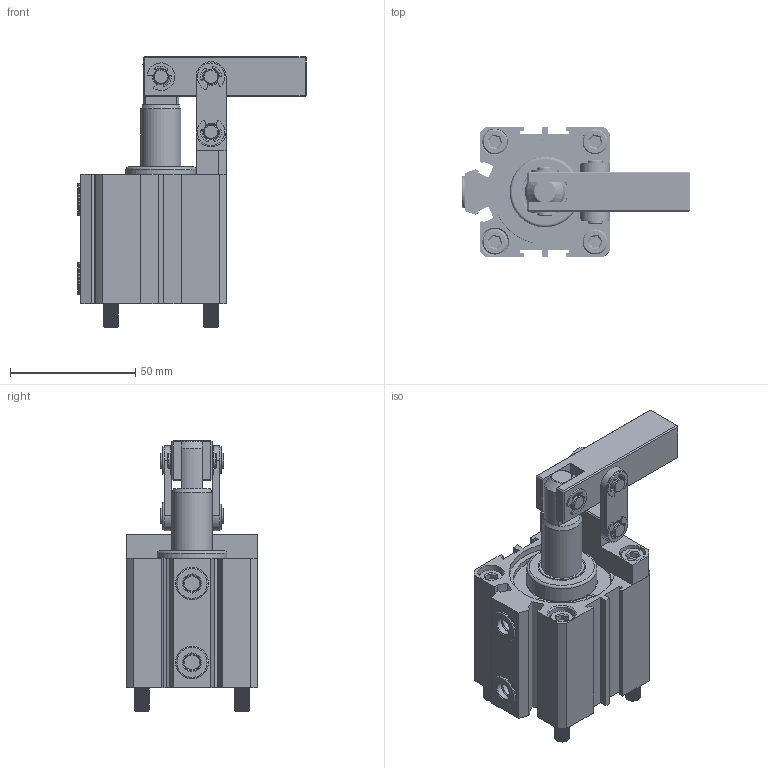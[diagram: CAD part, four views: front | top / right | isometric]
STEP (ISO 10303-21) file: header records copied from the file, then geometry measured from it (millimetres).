
FILE_DESCRIPTION(/* description */ ('STEP AP203'),/* implementation_level */ '2;1');
FILE_NAME(/* name */ 'E:\SERWER_ZAPAS\Pneumatic\CALC PNEUMATIC LEVERAGE BEZ MS\CALC-40\CALC-40_ZAMKNIETY.stp',/* time_stamp */ '2019-02-07T10:54:47+01:00',/* author */ ('Admin'),/* organization */ ('Î¢ÈíÖÐ¹ú'),/* preprocessor_version */ 'ST-DEVELOPER v17.2',/* originating_system */ 'Autodesk Inventor 2019',/* authorisation */ '');
FILE_SCHEMA (('AUTOMOTIVE_DESIGN { 1 0 10303 214 3 1 1 }'));
Products named in the file (17): CALC-40_ZAMKNIETY; »îÈû¸Ë; »îÈû; 40±¾Ìå22; ¸ÖÌ×; ºó¸Ç; Ç°¸Ç; ¶ÌÖá; M60002; ³¤Öá; ¸´¼þ ¿¨33; 1-8¶ÂÍ·MS40; MS40Ñ¹±Û; Á¬¸Ë; ¿ªÊ¼; 4556ºÃ; ¸´¼þ M60002
Assembly tree (27 placements, depth 2):
  CALC-40_ZAMKNIETY
    1-8¶ÂÍ·MS40  x2
    »îÈû¸Ë
    M60002  x2
    ¿ªÊ¼  x6
    »îÈû
    40±¾Ìå22
    ¸ÖÌ×
    ¸´¼þ ¿¨33  x2
    ³¤Öá  x2
    ºó¸Ç
    Ç°¸Ç
    ¶ÌÖá
    ¸´¼þ M60002  x2
    Á¬¸Ë  x2
    MS40Ñ¹±Û
    4556ºÃ
Bounding box: 91.2 x 52 x 108 mm (x, y, z)
Volume: 119686.4 mm3; surface area: 72543.5 mm2
Topology: 27 solids, 27 shells, 858 faces, 2370 edges, 1625 vertices
Faces by surface type: cylinder 417, plane 319, cone 54, torus 49, bspline 19
Full cylindrical faces by diameter (mm): 1.705 x1, 2 x1, 2.45 x4, 5.2 x2, 5.202 x4, 6 x206, 6.8 x6, 7 x4, 8.2 x11, 8.7 x2, 10 x5, 10.5 x7, 12 x1, 13 x2, 16 x3, 17.2 x1, 18 x2, 20 x2, 23.5 x1, 25 x1, 26 x1, 28 x1, 29 x1, 32 x1, 33 x2, 35 x2, 38.4 x1, 38.8 x1, 39.5 x2, 40 x1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
Entity records: 41967 total; most frequent: CARTESIAN_POINT 27246, ORIENTED_EDGE 2980, DIRECTION 2959, EDGE_CURVE 1490, AXIS2_PLACEMENT_3D 1158, VERTEX_POINT 1031, LINE 643, VECTOR 643
